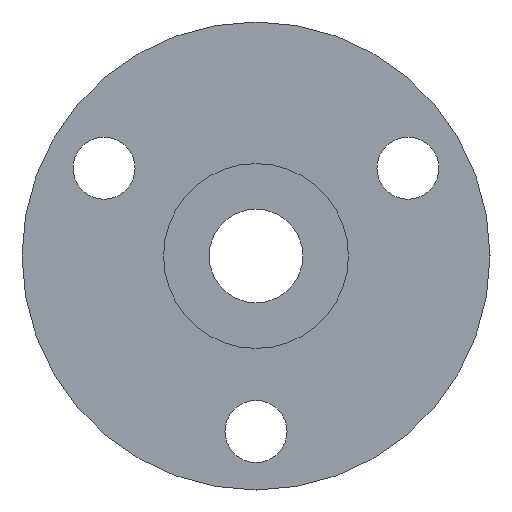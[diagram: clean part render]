
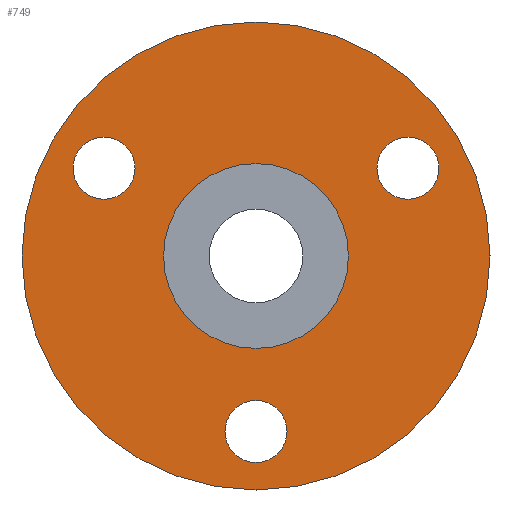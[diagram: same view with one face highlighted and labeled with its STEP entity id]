
A CAD part, front view. The second image highlights one B-rep face of the part: STEP entity #749.
In plain terms, the highlighted planar face has unit normal (0, -1, 0).
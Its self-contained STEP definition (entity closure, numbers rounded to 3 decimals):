
#17 = CARTESIAN_POINT ( 'NONE',  ( 0., -20.6, -15. ) ) ;
#41 = DIRECTION ( 'NONE',  ( 0., 1., 0. ) ) ;
#58 = ORIENTED_EDGE ( 'NONE', *, *, #948, .F. ) ;
#72 = CIRCLE ( 'NONE', #861, 2.65 ) ;
#84 = PLANE ( 'NONE',  #631 ) ;
#96 = DIRECTION ( 'NONE',  ( 0., 0., -1. ) ) ;
#107 = CARTESIAN_POINT ( 'NONE',  ( 12.99, -20.6, 7.5 ) ) ;
#135 = VERTEX_POINT ( 'NONE', #325 ) ;
#164 = DIRECTION ( 'NONE',  ( 0., 0., -1. ) ) ;
#167 = EDGE_CURVE ( 'NONE', #549, #219, #1080, .T. ) ;
#176 = CARTESIAN_POINT ( 'NONE',  ( 0., -20.6, -7.9 ) ) ;
#181 = FACE_BOUND ( 'NONE', #839, .T. ) ;
#199 = VERTEX_POINT ( 'NONE', #1068 ) ;
#205 = ORIENTED_EDGE ( 'NONE', *, *, #814, .F. ) ;
#217 = EDGE_CURVE ( 'NONE', #339, #613, #865, .T. ) ;
#219 = VERTEX_POINT ( 'NONE', #534 ) ;
#246 = CARTESIAN_POINT ( 'NONE',  ( 0., -20.6, 0. ) ) ;
#274 = ORIENTED_EDGE ( 'NONE', *, *, #167, .T. ) ;
#285 = AXIS2_PLACEMENT_3D ( 'NONE', #915, #494, #330 ) ;
#325 = CARTESIAN_POINT ( 'NONE',  ( 0., -20.6, 20. ) ) ;
#330 = DIRECTION ( 'NONE',  ( 0., 0., 1. ) ) ;
#334 = CIRCLE ( 'NONE', #611, 2.65 ) ;
#339 = VERTEX_POINT ( 'NONE', #364 ) ;
#340 = DIRECTION ( 'NONE',  ( 0., -1., 0. ) ) ;
#344 = FACE_BOUND ( 'NONE', #625, .T. ) ;
#360 = EDGE_LOOP ( 'NONE', ( #949, #58 ) ) ;
#364 = CARTESIAN_POINT ( 'NONE',  ( 0., -20.6, -17.65 ) ) ;
#384 = DIRECTION ( 'NONE',  ( 0., 0., 1. ) ) ;
#385 = VERTEX_POINT ( 'NONE', #506 ) ;
#390 = CIRCLE ( 'NONE', #588, 2.65 ) ;
#397 = EDGE_CURVE ( 'NONE', #219, #549, #666, .T. ) ;
#408 = AXIS2_PLACEMENT_3D ( 'NONE', #1024, #474, #788 ) ;
#424 = CIRCLE ( 'NONE', #408, 20. ) ;
#427 = ORIENTED_EDGE ( 'NONE', *, *, #872, .F. ) ;
#469 = CARTESIAN_POINT ( 'NONE',  ( 0., -20.6, 0. ) ) ;
#474 = DIRECTION ( 'NONE',  ( 0., 1., 0. ) ) ;
#491 = DIRECTION ( 'NONE',  ( 0., 0., -1. ) ) ;
#494 = DIRECTION ( 'NONE',  ( 0., 1., 0. ) ) ;
#506 = CARTESIAN_POINT ( 'NONE',  ( 12.99, -20.6, 10.15 ) ) ;
#513 = DIRECTION ( 'NONE',  ( 0., -1., 0. ) ) ;
#519 = FACE_BOUND ( 'NONE', #692, .T. ) ;
#534 = CARTESIAN_POINT ( 'NONE',  ( 0., -20.6, 7.9 ) ) ;
#539 = AXIS2_PLACEMENT_3D ( 'NONE', #469, #41, #384 ) ;
#548 = DIRECTION ( 'NONE',  ( 0., 0., -1. ) ) ;
#549 = VERTEX_POINT ( 'NONE', #176 ) ;
#588 = AXIS2_PLACEMENT_3D ( 'NONE', #107, #340, #1007 ) ;
#594 = VERTEX_POINT ( 'NONE', #717 ) ;
#595 = DIRECTION ( 'NONE',  ( 0., -1., 0. ) ) ;
#597 = DIRECTION ( 'NONE',  ( 0., 1., 0. ) ) ;
#611 = AXIS2_PLACEMENT_3D ( 'NONE', #1063, #820, #1048 ) ;
#613 = VERTEX_POINT ( 'NONE', #787 ) ;
#615 = ORIENTED_EDGE ( 'NONE', *, *, #966, .F. ) ;
#620 = CARTESIAN_POINT ( 'NONE',  ( 0., -20.6, 20. ) ) ;
#622 = DIRECTION ( 'NONE',  ( 0., -1., 0. ) ) ;
#625 = EDGE_LOOP ( 'NONE', ( #741, #274 ) ) ;
#631 = AXIS2_PLACEMENT_3D ( 'NONE', #620, #595, #96 ) ;
#666 = CIRCLE ( 'NONE', #797, 7.9 ) ;
#685 = CARTESIAN_POINT ( 'NONE',  ( -12.99, -20.6, 7.5 ) ) ;
#692 = EDGE_LOOP ( 'NONE', ( #817, #205 ) ) ;
#694 = FACE_BOUND ( 'NONE', #360, .T. ) ;
#707 = VERTEX_POINT ( 'NONE', #805 ) ;
#717 = CARTESIAN_POINT ( 'NONE',  ( -12.99, -20.6, 4.85 ) ) ;
#736 = CARTESIAN_POINT ( 'NONE',  ( 0., -20.6, -15. ) ) ;
#739 = EDGE_CURVE ( 'NONE', #385, #994, #390, .T. ) ;
#741 = ORIENTED_EDGE ( 'NONE', *, *, #397, .T. ) ;
#749 = ADVANCED_FACE ( 'NONE', ( #694, #519, #181, #344, #847 ), #84, .T. ) ;
#752 = CIRCLE ( 'NONE', #772, 2.65 ) ;
#772 = AXIS2_PLACEMENT_3D ( 'NONE', #782, #952, #548 ) ;
#782 = CARTESIAN_POINT ( 'NONE',  ( 12.99, -20.6, 7.5 ) ) ;
#787 = CARTESIAN_POINT ( 'NONE',  ( 0., -20.6, -12.35 ) ) ;
#788 = DIRECTION ( 'NONE',  ( 0., 0., 1. ) ) ;
#797 = AXIS2_PLACEMENT_3D ( 'NONE', #246, #597, #977 ) ;
#805 = CARTESIAN_POINT ( 'NONE',  ( 0., -20.6, -20. ) ) ;
#814 = EDGE_CURVE ( 'NONE', #994, #385, #752, .T. ) ;
#817 = ORIENTED_EDGE ( 'NONE', *, *, #739, .F. ) ;
#821 = EDGE_CURVE ( 'NONE', #135, #707, #424, .T. ) ;
#820 = DIRECTION ( 'NONE',  ( 0., -1., 0. ) ) ;
#839 = EDGE_LOOP ( 'NONE', ( #615, #1051 ) ) ;
#841 = CIRCLE ( 'NONE', #979, 2.65 ) ;
#846 = ORIENTED_EDGE ( 'NONE', *, *, #821, .F. ) ;
#847 = FACE_OUTER_BOUND ( 'NONE', #970, .T. ) ;
#861 = AXIS2_PLACEMENT_3D ( 'NONE', #685, #513, #164 ) ;
#865 = CIRCLE ( 'NONE', #1062, 2.65 ) ;
#872 = EDGE_CURVE ( 'NONE', #707, #135, #896, .T. ) ;
#896 = CIRCLE ( 'NONE', #539, 20. ) ;
#898 = CARTESIAN_POINT ( 'NONE',  ( 12.99, -20.6, 4.85 ) ) ;
#915 = CARTESIAN_POINT ( 'NONE',  ( 0., -20.6, 0. ) ) ;
#948 = EDGE_CURVE ( 'NONE', #594, #199, #334, .T. ) ;
#949 = ORIENTED_EDGE ( 'NONE', *, *, #1050, .F. ) ;
#952 = DIRECTION ( 'NONE',  ( 0., -1., 0. ) ) ;
#966 = EDGE_CURVE ( 'NONE', #613, #339, #841, .T. ) ;
#970 = EDGE_LOOP ( 'NONE', ( #846, #427 ) ) ;
#976 = DIRECTION ( 'NONE',  ( 0., -1., 0. ) ) ;
#977 = DIRECTION ( 'NONE',  ( 0., 0., 1. ) ) ;
#979 = AXIS2_PLACEMENT_3D ( 'NONE', #736, #976, #491 ) ;
#994 = VERTEX_POINT ( 'NONE', #898 ) ;
#1007 = DIRECTION ( 'NONE',  ( 0., 0., -1. ) ) ;
#1018 = DIRECTION ( 'NONE',  ( 0., 0., -1. ) ) ;
#1024 = CARTESIAN_POINT ( 'NONE',  ( 0., -20.6, 0. ) ) ;
#1048 = DIRECTION ( 'NONE',  ( 0., 0., -1. ) ) ;
#1050 = EDGE_CURVE ( 'NONE', #199, #594, #72, .T. ) ;
#1051 = ORIENTED_EDGE ( 'NONE', *, *, #217, .F. ) ;
#1062 = AXIS2_PLACEMENT_3D ( 'NONE', #17, #622, #1018 ) ;
#1063 = CARTESIAN_POINT ( 'NONE',  ( -12.99, -20.6, 7.5 ) ) ;
#1068 = CARTESIAN_POINT ( 'NONE',  ( -12.99, -20.6, 10.15 ) ) ;
#1080 = CIRCLE ( 'NONE', #285, 7.9 ) ;
